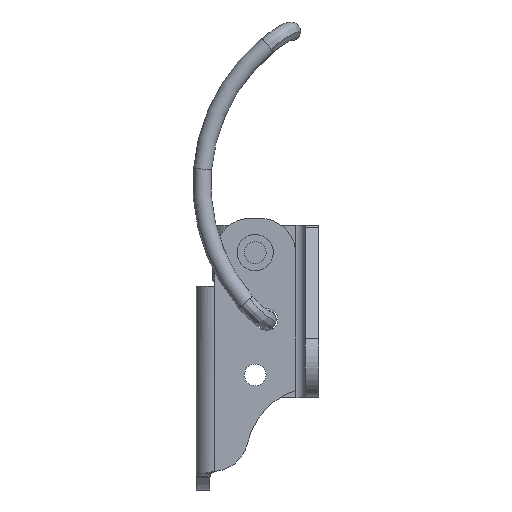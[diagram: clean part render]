
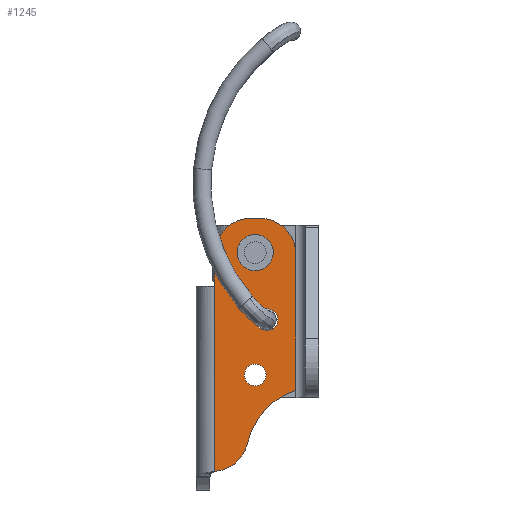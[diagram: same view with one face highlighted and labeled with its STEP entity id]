
A CAD part, left-side view. The second image highlights one B-rep face of the part: STEP entity #1245.
In plain terms, the highlighted planar face has unit normal (-1, 0, 0) as drawn and (1, 0, 0) by its records, which use the part's own axes.
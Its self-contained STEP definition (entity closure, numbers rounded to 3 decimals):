
#14 = DIRECTION ( 'NONE',  ( 0., 0., 1. ) ) ;
#48 = DIRECTION ( 'NONE',  ( 1., 0., 0. ) ) ;
#79 = ORIENTED_EDGE ( 'NONE', *, *, #3053, .F. ) ;
#133 = AXIS2_PLACEMENT_3D ( 'NONE', #1987, #4498, #14 ) ;
#161 = CARTESIAN_POINT ( 'NONE',  ( 7.5, 4.5, 1.1 ) ) ;
#314 = DIRECTION ( 'NONE',  ( 0., 0., 1. ) ) ;
#374 = VERTEX_POINT ( 'NONE', #2047 ) ;
#430 = EDGE_CURVE ( 'NONE', #3961, #7775, #4225, .T. ) ;
#471 = CIRCLE ( 'NONE', #4438, 1.55 ) ;
#554 = CARTESIAN_POINT ( 'NONE',  ( 7.5, 3.2, -2.6 ) ) ;
#593 = DIRECTION ( 'NONE',  ( 1., 0., 0. ) ) ;
#691 = DIRECTION ( 'NONE',  ( 1., 0., 0. ) ) ;
#700 = CARTESIAN_POINT ( 'NONE',  ( 7.5, 4.5, -11.2 ) ) ;
#734 = DIRECTION ( 'NONE',  ( 0., 0., -1. ) ) ;
#780 = AXIS2_PLACEMENT_3D ( 'NONE', #7609, #691, #1337 ) ;
#833 = VERTEX_POINT ( 'NONE', #1655 ) ;
#842 = CARTESIAN_POINT ( 'NONE',  ( 7.5, 4.5, -9.65 ) ) ;
#875 = ORIENTED_EDGE ( 'NONE', *, *, #7196, .T. ) ;
#958 = CIRCLE ( 'NONE', #6383, 4. ) ;
#977 = VECTOR ( 'NONE', #2998, 1000. ) ;
#1009 = EDGE_CURVE ( 'NONE', #7775, #3961, #4363, .T. ) ;
#1037 = CIRCLE ( 'NONE', #4758, 8. ) ;
#1075 = EDGE_LOOP ( 'NONE', ( #5381, #3855 ) ) ;
#1079 = EDGE_CURVE ( 'NONE', #1554, #5709, #4392, .T. ) ;
#1127 = CARTESIAN_POINT ( 'NONE',  ( 7.5, 3.2, -5. ) ) ;
#1245 = ADVANCED_FACE ( 'NONE', ( #3344, #5842, #7648, #4716 ), #3383, .F. ) ;
#1292 = ORIENTED_EDGE ( 'NONE', *, *, #7971, .T. ) ;
#1337 = DIRECTION ( 'NONE',  ( 0., 0., -1. ) ) ;
#1544 = ORIENTED_EDGE ( 'NONE', *, *, #3227, .T. ) ;
#1554 = VERTEX_POINT ( 'NONE', #4896 ) ;
#1655 = CARTESIAN_POINT ( 'NONE',  ( 7.5, 4.5, -12.75 ) ) ;
#1658 = ORIENTED_EDGE ( 'NONE', *, *, #7341, .F. ) ;
#1687 = DIRECTION ( 'NONE',  ( 1., 0., 0. ) ) ;
#1758 = ORIENTED_EDGE ( 'NONE', *, *, #2395, .F. ) ;
#1776 = DIRECTION ( 'NONE',  ( 0., 0., -1. ) ) ;
#1781 = EDGE_CURVE ( 'NONE', #7674, #2927, #2396, .T. ) ;
#1823 = VECTOR ( 'NONE', #2222, 1000. ) ;
#1944 = CARTESIAN_POINT ( 'NONE',  ( 7.5, 5.5, 12.5 ) ) ;
#1956 = DIRECTION ( 'NONE',  ( 1., 0., 0. ) ) ;
#1987 = CARTESIAN_POINT ( 'NONE',  ( 7.5, 5., -11. ) ) ;
#2018 = CARTESIAN_POINT ( 'NONE',  ( 7.5, 0., 15. ) ) ;
#2047 = CARTESIAN_POINT ( 'NONE',  ( 7.5, 5., -15. ) ) ;
#2158 = CARTESIAN_POINT ( 'NONE',  ( 7.5, 3.2, -3.8 ) ) ;
#2170 = AXIS2_PLACEMENT_3D ( 'NONE', #6115, #48, #1776 ) ;
#2222 = DIRECTION ( 'NONE',  ( 0., 1., 0. ) ) ;
#2235 = VECTOR ( 'NONE', #3716, 1000. ) ;
#2243 = ORIENTED_EDGE ( 'NONE', *, *, #3171, .F. ) ;
#2342 = DIRECTION ( 'NONE',  ( 1., 0., 0. ) ) ;
#2394 = DIRECTION ( 'NONE',  ( 1., 0., 0. ) ) ;
#2395 = EDGE_CURVE ( 'NONE', #833, #6072, #471, .T. ) ;
#2396 = LINE ( 'NONE', #5433, #4706 ) ;
#2882 = ORIENTED_EDGE ( 'NONE', *, *, #7909, .F. ) ;
#2927 = VERTEX_POINT ( 'NONE', #4211 ) ;
#2998 = DIRECTION ( 'NONE',  ( 0., 0., -1. ) ) ;
#3032 = DIRECTION ( 'NONE',  ( 0., 1., 0. ) ) ;
#3053 = EDGE_CURVE ( 'NONE', #3433, #7674, #4970, .T. ) ;
#3171 = EDGE_CURVE ( 'NONE', #5905, #3563, #4679, .T. ) ;
#3214 = CARTESIAN_POINT ( 'NONE',  ( 7.5, 9., 12.96 ) ) ;
#3227 = EDGE_CURVE ( 'NONE', #3433, #5567, #958, .T. ) ;
#3344 = FACE_BOUND ( 'NONE', #4838, .T. ) ;
#3383 = PLANE ( 'NONE',  #5284 ) ;
#3433 = VERTEX_POINT ( 'NONE', #4151 ) ;
#3464 = CIRCLE ( 'NONE', #780, 1.2 ) ;
#3563 = VERTEX_POINT ( 'NONE', #1127 ) ;
#3600 = LINE ( 'NONE', #6089, #977 ) ;
#3716 = DIRECTION ( 'NONE',  ( 0., 0.991, 0.13 ) ) ;
#3855 = ORIENTED_EDGE ( 'NONE', *, *, #430, .F. ) ;
#3910 = CARTESIAN_POINT ( 'NONE',  ( 7.5, 4., -11. ) ) ;
#3948 = ORIENTED_EDGE ( 'NONE', *, *, #6055, .F. ) ;
#3961 = VERTEX_POINT ( 'NONE', #4842 ) ;
#3996 = DIRECTION ( 'NONE',  ( 0., 0., 1. ) ) ;
#4035 = CARTESIAN_POINT ( 'NONE',  ( 7.5, -2.451, 11.615 ) ) ;
#4073 = DIRECTION ( 'NONE',  ( -1., 0., 0. ) ) ;
#4107 = VECTOR ( 'NONE', #734, 1000. ) ;
#4151 = CARTESIAN_POINT ( 'NONE',  ( 7.5, 8.73, 12.925 ) ) ;
#4195 = DIRECTION ( 'NONE',  ( 0., 0., -1. ) ) ;
#4211 = CARTESIAN_POINT ( 'NONE',  ( 7.5, 9., -7.5 ) ) ;
#4225 = CIRCLE ( 'NONE', #2170, 1.2 ) ;
#4226 = AXIS2_PLACEMENT_3D ( 'NONE', #6685, #2342, #4195 ) ;
#4363 = CIRCLE ( 'NONE', #4226, 1.2 ) ;
#4381 = CARTESIAN_POINT ( 'NONE',  ( 7.5, 5.351, 9.844 ) ) ;
#4392 = LINE ( 'NONE', #2018, #4107 ) ;
#4438 = AXIS2_PLACEMENT_3D ( 'NONE', #7997, #1687, #6019 ) ;
#4443 = AXIS2_PLACEMENT_3D ( 'NONE', #3910, #1956, #3996 ) ;
#4498 = DIRECTION ( 'NONE',  ( 1., 0., 0. ) ) ;
#4568 = ORIENTED_EDGE ( 'NONE', *, *, #6843, .F. ) ;
#4619 = DIRECTION ( 'NONE',  ( 0., 0., -1. ) ) ;
#4650 = LINE ( 'NONE', #7140, #1823 ) ;
#4677 = CARTESIAN_POINT ( 'NONE',  ( 7.5, 0., 15. ) ) ;
#4679 = CIRCLE ( 'NONE', #6518, 1.2 ) ;
#4706 = VECTOR ( 'NONE', #5393, 1000. ) ;
#4716 = FACE_OUTER_BOUND ( 'NONE', #6914, .T. ) ;
#4758 = AXIS2_PLACEMENT_3D ( 'NONE', #4035, #593, #3032 ) ;
#4838 = EDGE_LOOP ( 'NONE', ( #1758, #4568 ) ) ;
#4842 = CARTESIAN_POINT ( 'NONE',  ( 7.5, 4.5, 3.5 ) ) ;
#4845 = DIRECTION ( 'NONE',  ( 0., 0., -1. ) ) ;
#4896 = CARTESIAN_POINT ( 'NONE',  ( 7.5, 0., 4. ) ) ;
#4970 = LINE ( 'NONE', #1944, #2235 ) ;
#5018 = CIRCLE ( 'NONE', #133, 4. ) ;
#5144 = CARTESIAN_POINT ( 'NONE',  ( 7.5, 9.251, 8.959 ) ) ;
#5200 = CARTESIAN_POINT ( 'NONE',  ( 7.5, 0., -11. ) ) ;
#5284 = AXIS2_PLACEMENT_3D ( 'NONE', #4677, #4073, #5913 ) ;
#5323 = ORIENTED_EDGE ( 'NONE', *, *, #5769, .T. ) ;
#5381 = ORIENTED_EDGE ( 'NONE', *, *, #1009, .F. ) ;
#5393 = DIRECTION ( 'NONE',  ( 0., 0., -1. ) ) ;
#5433 = CARTESIAN_POINT ( 'NONE',  ( 7.5, 9., 15. ) ) ;
#5567 = VERTEX_POINT ( 'NONE', #4381 ) ;
#5709 = VERTEX_POINT ( 'NONE', #5200 ) ;
#5732 = AXIS2_PLACEMENT_3D ( 'NONE', #700, #2394, #4845 ) ;
#5758 = ORIENTED_EDGE ( 'NONE', *, *, #1781, .F. ) ;
#5769 = EDGE_CURVE ( 'NONE', #5709, #6357, #6014, .T. ) ;
#5842 = FACE_BOUND ( 'NONE', #7786, .T. ) ;
#5857 = DIRECTION ( 'NONE',  ( 1., 0., 0. ) ) ;
#5905 = VERTEX_POINT ( 'NONE', #554 ) ;
#5913 = DIRECTION ( 'NONE',  ( 0., 0., 1. ) ) ;
#6014 = CIRCLE ( 'NONE', #4443, 4. ) ;
#6019 = DIRECTION ( 'NONE',  ( 0., 0., -1. ) ) ;
#6055 = EDGE_CURVE ( 'NONE', #2927, #7876, #3600, .T. ) ;
#6072 = VERTEX_POINT ( 'NONE', #842 ) ;
#6089 = CARTESIAN_POINT ( 'NONE',  ( 7.5, 9., -15. ) ) ;
#6115 = CARTESIAN_POINT ( 'NONE',  ( 7.5, 4.5, 2.3 ) ) ;
#6123 = CARTESIAN_POINT ( 'NONE',  ( 7.5, 9., -11. ) ) ;
#6357 = VERTEX_POINT ( 'NONE', #7266 ) ;
#6383 = AXIS2_PLACEMENT_3D ( 'NONE', #5144, #5857, #314 ) ;
#6518 = AXIS2_PLACEMENT_3D ( 'NONE', #2158, #6538, #4619 ) ;
#6538 = DIRECTION ( 'NONE',  ( 1., 0., 0. ) ) ;
#6634 = CIRCLE ( 'NONE', #5732, 1.55 ) ;
#6685 = CARTESIAN_POINT ( 'NONE',  ( 7.5, 4.5, 2.3 ) ) ;
#6843 = EDGE_CURVE ( 'NONE', #6072, #833, #6634, .T. ) ;
#6914 = EDGE_LOOP ( 'NONE', ( #79, #1544, #2882, #7249, #5323, #875, #1292, #3948, #5758 ) ) ;
#7140 = CARTESIAN_POINT ( 'NONE',  ( 7.5, 0., -15. ) ) ;
#7196 = EDGE_CURVE ( 'NONE', #6357, #374, #4650, .T. ) ;
#7249 = ORIENTED_EDGE ( 'NONE', *, *, #1079, .T. ) ;
#7266 = CARTESIAN_POINT ( 'NONE',  ( 7.5, 4., -15. ) ) ;
#7341 = EDGE_CURVE ( 'NONE', #3563, #5905, #3464, .T. ) ;
#7609 = CARTESIAN_POINT ( 'NONE',  ( 7.5, 3.2, -3.8 ) ) ;
#7648 = FACE_BOUND ( 'NONE', #1075, .T. ) ;
#7674 = VERTEX_POINT ( 'NONE', #3214 ) ;
#7775 = VERTEX_POINT ( 'NONE', #161 ) ;
#7786 = EDGE_LOOP ( 'NONE', ( #1658, #2243 ) ) ;
#7876 = VERTEX_POINT ( 'NONE', #6123 ) ;
#7909 = EDGE_CURVE ( 'NONE', #1554, #5567, #1037, .T. ) ;
#7971 = EDGE_CURVE ( 'NONE', #374, #7876, #5018, .T. ) ;
#7997 = CARTESIAN_POINT ( 'NONE',  ( 7.5, 4.5, -11.2 ) ) ;
